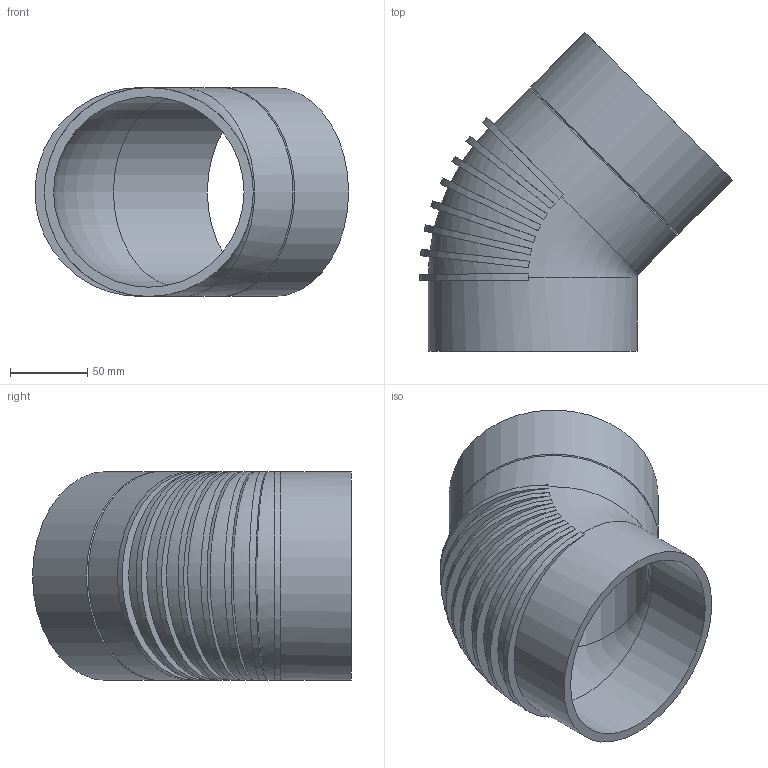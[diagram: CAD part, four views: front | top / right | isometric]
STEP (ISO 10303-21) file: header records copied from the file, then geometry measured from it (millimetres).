
FILE_DESCRIPTION(/* description */ (''),/* implementation_level */ '2;1');
FILE_NAME(/* name */ 'Z:\Geberit\Export\NewStep\Bogen_Ipart\stp\312450.stp',/* time_stamp */ '2014-04-03T16:42:56+02:00',/* author */ ('Marco'),/* organization */ (''),/* preprocessor_version */ 'ST-DEVELOPER v15.2',/* originating_system */ 'Autodesk Inventor 2014',/* authorisation */ '');
FILE_SCHEMA (('AUTOMOTIVE_DESIGN { 1 0 10303 214 3 1 1 }'));
Length unit declared in the file: millimetre
Products named in the file (1): 312450
Bounding box: 202.3 x 206.05 x 135 mm (x, y, z)
Volume: 486281.5 mm3; surface area: 172059.1 mm2
Topology: 1 solids, 1 shells, 35 faces, 96 edges, 63 vertices
Faces by surface type: plane 18, cylinder 13, cone 2, torus 2
Full cylindrical faces by diameter (mm): 123 x2, 135 x3
Entity records: 1956 total; most frequent: CARTESIAN_POINT 1152, ORIENTED_EDGE 154, DIRECTION 134, EDGE_CURVE 77, AXIS2_PLACEMENT_3D 65, VERTEX_POINT 59, EDGE_LOOP 52, B_SPLINE_CURVE_WITH_KNOTS 44
